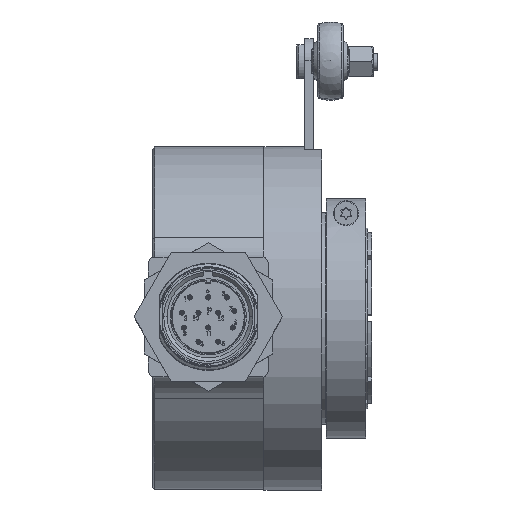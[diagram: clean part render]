
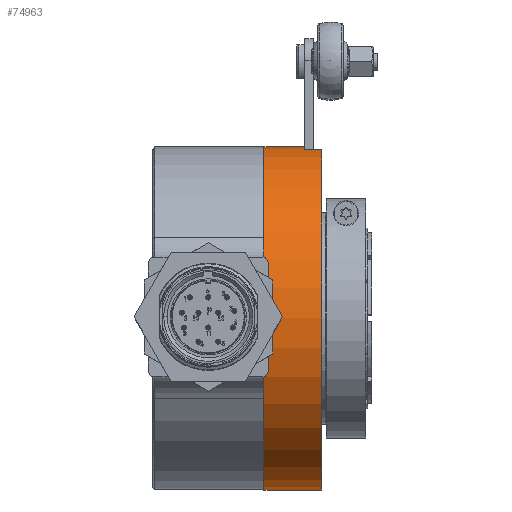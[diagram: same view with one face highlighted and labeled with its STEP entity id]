
A CAD part, top view. The second image highlights one B-rep face of the part: STEP entity #74963.
In plain terms, the highlighted cylindrical face has radius 40.075 mm (diameter 80.15 mm), a partial arc.
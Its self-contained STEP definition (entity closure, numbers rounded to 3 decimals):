
#1603 = AXIS2_PLACEMENT_3D ( 'NONE', #56140, #67082, #13536 ) ;
#3339 = CARTESIAN_POINT ( 'NONE',  ( 0., 40.075, 0. ) ) ;
#4301 = CARTESIAN_POINT ( 'NONE',  ( -12.775, -40.075, 0. ) ) ;
#7675 = VECTOR ( 'NONE', #51040, 1000. ) ;
#8103 = CARTESIAN_POINT ( 'NONE',  ( -12.775, 40.075, 0. ) ) ;
#8945 = VERTEX_POINT ( 'NONE', #25157 ) ;
#11075 = ORIENTED_EDGE ( 'NONE', *, *, #47795, .F. ) ;
#11323 = EDGE_CURVE ( 'NONE', #65857, #62760, #37435, .T. ) ;
#13536 = DIRECTION ( 'NONE',  ( 0., 1., 0. ) ) ;
#13739 = VERTEX_POINT ( 'NONE', #53214 ) ;
#14380 = CIRCLE ( 'NONE', #66951, 40.075 ) ;
#15631 = VERTEX_POINT ( 'NONE', #43000 ) ;
#18912 = CARTESIAN_POINT ( 'NONE',  ( -12.775, 39.468, 6.95 ) ) ;
#20928 = ORIENTED_EDGE ( 'NONE', *, *, #55189, .T. ) ;
#24631 = CARTESIAN_POINT ( 'NONE',  ( 0., -40.075, 0. ) ) ;
#25157 = CARTESIAN_POINT ( 'NONE',  ( 9.5, 39.468, 6.95 ) ) ;
#26210 = CIRCLE ( 'NONE', #59934, 40.075 ) ;
#28962 = DIRECTION ( 'NONE',  ( 0., 1., 0. ) ) ;
#30079 = EDGE_CURVE ( 'NONE', #70460, #62760, #43997, .T. ) ;
#30993 = LINE ( 'NONE', #18912, #58898 ) ;
#31004 = AXIS2_PLACEMENT_3D ( 'NONE', #73034, #36020, #37473 ) ;
#32156 = ORIENTED_EDGE ( 'NONE', *, *, #71347, .T. ) ;
#33107 = DIRECTION ( 'NONE',  ( -1., 0., 0. ) ) ;
#36020 = DIRECTION ( 'NONE',  ( -1., 0., 0. ) ) ;
#37435 = CIRCLE ( 'NONE', #31004, 40.075 ) ;
#37473 = DIRECTION ( 'NONE',  ( 0., 1., 0. ) ) ;
#43000 = CARTESIAN_POINT ( 'NONE',  ( 13.5, 39.468, 6.95 ) ) ;
#43989 = CYLINDRICAL_SURFACE ( 'NONE', #1603, 40.075 ) ;
#43997 = LINE ( 'NONE', #8103, #7675 ) ;
#46060 = LINE ( 'NONE', #4301, #51338 ) ;
#46455 = DIRECTION ( 'NONE',  ( -1., 0., 0. ) ) ;
#47795 = EDGE_CURVE ( 'NONE', #13739, #65857, #46060, .T. ) ;
#48561 = CARTESIAN_POINT ( 'NONE',  ( 9.5, 40.075, 0. ) ) ;
#51040 = DIRECTION ( 'NONE',  ( -1., 0., 0. ) ) ;
#51338 = VECTOR ( 'NONE', #46455, 1000. ) ;
#53214 = CARTESIAN_POINT ( 'NONE',  ( 13.5, -40.075, 0. ) ) ;
#54189 = EDGE_LOOP ( 'NONE', ( #11075, #20928, #68482, #32156, #68236, #69433 ) ) ;
#55189 = EDGE_CURVE ( 'NONE', #13739, #15631, #14380, .T. ) ;
#56140 = CARTESIAN_POINT ( 'NONE',  ( -12.775, 0., 0. ) ) ;
#58898 = VECTOR ( 'NONE', #72809, 1000. ) ;
#59934 = AXIS2_PLACEMENT_3D ( 'NONE', #62835, #33107, #69058 ) ;
#60845 = FACE_OUTER_BOUND ( 'NONE', #54189, .T. ) ;
#62760 = VERTEX_POINT ( 'NONE', #3339 ) ;
#62835 = CARTESIAN_POINT ( 'NONE',  ( 9.5, 0., 0. ) ) ;
#65857 = VERTEX_POINT ( 'NONE', #24631 ) ;
#66951 = AXIS2_PLACEMENT_3D ( 'NONE', #69613, #76614, #28962 ) ;
#67082 = DIRECTION ( 'NONE',  ( -1., 0., 0. ) ) ;
#68236 = ORIENTED_EDGE ( 'NONE', *, *, #30079, .T. ) ;
#68482 = ORIENTED_EDGE ( 'NONE', *, *, #73811, .T. ) ;
#69058 = DIRECTION ( 'NONE',  ( 0., 1., 0. ) ) ;
#69433 = ORIENTED_EDGE ( 'NONE', *, *, #11323, .F. ) ;
#69613 = CARTESIAN_POINT ( 'NONE',  ( 13.5, 0., 0. ) ) ;
#70460 = VERTEX_POINT ( 'NONE', #48561 ) ;
#71347 = EDGE_CURVE ( 'NONE', #8945, #70460, #26210, .T. ) ;
#72809 = DIRECTION ( 'NONE',  ( -1., 0., 0. ) ) ;
#73034 = CARTESIAN_POINT ( 'NONE',  ( 0., 0., 0. ) ) ;
#73811 = EDGE_CURVE ( 'NONE', #15631, #8945, #30993, .T. ) ;
#74963 = ADVANCED_FACE ( 'NONE', ( #60845 ), #43989, .T. ) ;
#76614 = DIRECTION ( 'NONE',  ( -1., 0., 0. ) ) ;
